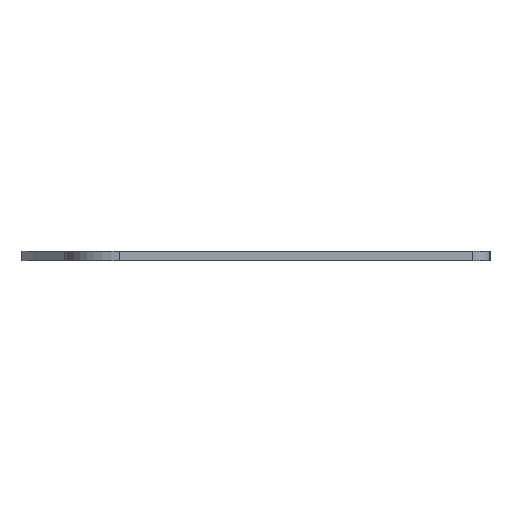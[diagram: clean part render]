
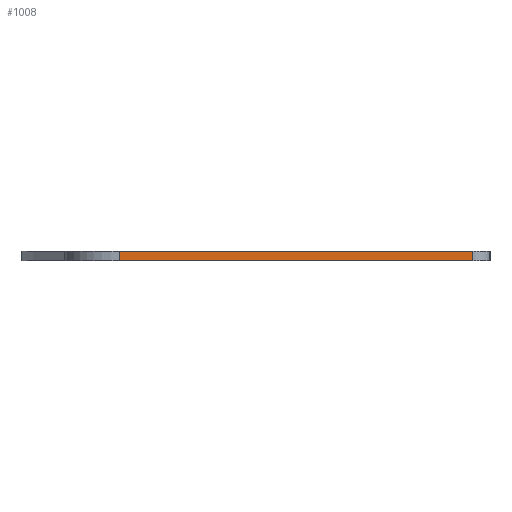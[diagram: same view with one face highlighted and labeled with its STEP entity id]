
A CAD part, left-side view. The second image highlights one B-rep face of the part: STEP entity #1008.
In plain terms, the highlighted planar face has unit normal (-1, 0, 0).
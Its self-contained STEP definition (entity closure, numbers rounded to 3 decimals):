
#44 = CYLINDRICAL_SURFACE('',#45,8.2);
#45 = AXIS2_PLACEMENT_3D('',#46,#47,#48);
#46 = CARTESIAN_POINT('',(-357.,12.,0.));
#47 = DIRECTION('',(-0.,-0.,-1.));
#48 = DIRECTION('',(-1.,0.,0.));
#72 = PLANE('',#73);
#73 = AXIS2_PLACEMENT_3D('',#74,#75,#76);
#74 = CARTESIAN_POINT('',(0.,108.486,4.5));
#75 = DIRECTION('',(0.,0.,1.));
#76 = DIRECTION('',(1.,0.,-0.));
#126 = PLANE('',#127);
#127 = AXIS2_PLACEMENT_3D('',#128,#129,#130);
#128 = CARTESIAN_POINT('',(0.,108.486,0.));
#129 = DIRECTION('',(0.,0.,1.));
#130 = DIRECTION('',(1.,0.,-0.));
#141 = EDGE_CURVE('',#142,#144,#146,.T.);
#142 = VERTEX_POINT('',#143);
#143 = CARTESIAN_POINT('',(-365.2,12.,0.));
#144 = VERTEX_POINT('',#145);
#145 = CARTESIAN_POINT('',(-365.2,12.,4.5));
#146 = SURFACE_CURVE('',#147,(#151,#158),.PCURVE_S1.);
#147 = LINE('',#148,#149);
#148 = CARTESIAN_POINT('',(-365.2,12.,0.));
#149 = VECTOR('',#150,1.);
#150 = DIRECTION('',(0.,0.,1.));
#151 = PCURVE('',#44,#152);
#152 = DEFINITIONAL_REPRESENTATION('',(#153),#157);
#153 = LINE('',#154,#155);
#154 = CARTESIAN_POINT('',(-6.283,0.));
#155 = VECTOR('',#156,1.);
#156 = DIRECTION('',(-0.,-1.));
#157 = ( GEOMETRIC_REPRESENTATION_CONTEXT(2) 
PARAMETRIC_REPRESENTATION_CONTEXT() REPRESENTATION_CONTEXT('2D SPACE',''
  ) );
#158 = PCURVE('',#159,#164);
#159 = PLANE('',#160);
#160 = AXIS2_PLACEMENT_3D('',#161,#162,#163);
#161 = CARTESIAN_POINT('',(-365.2,179.788,0.));
#162 = DIRECTION('',(1.,0.,-0.));
#163 = DIRECTION('',(0.,-1.,0.));
#164 = DEFINITIONAL_REPRESENTATION('',(#165),#169);
#165 = LINE('',#166,#167);
#166 = CARTESIAN_POINT('',(167.788,0.));
#167 = VECTOR('',#168,1.);
#168 = DIRECTION('',(0.,-1.));
#169 = ( GEOMETRIC_REPRESENTATION_CONTEXT(2) 
PARAMETRIC_REPRESENTATION_CONTEXT() REPRESENTATION_CONTEXT('2D SPACE',''
  ) );
#381 = VERTEX_POINT('',#382);
#382 = CARTESIAN_POINT('',(-365.2,179.788,0.));
#397 = CYLINDRICAL_SURFACE('',#398,26.2);
#398 = AXIS2_PLACEMENT_3D('',#399,#400,#401);
#399 = CARTESIAN_POINT('',(-339.,179.788,0.));
#400 = DIRECTION('',(-0.,-0.,-1.));
#401 = DIRECTION('',(-0.119,0.993,0.));
#409 = EDGE_CURVE('',#381,#142,#410,.T.);
#410 = SURFACE_CURVE('',#411,(#415,#422),.PCURVE_S1.);
#411 = LINE('',#412,#413);
#412 = CARTESIAN_POINT('',(-365.2,179.788,0.));
#413 = VECTOR('',#414,1.);
#414 = DIRECTION('',(0.,-1.,-0.));
#415 = PCURVE('',#126,#416);
#416 = DEFINITIONAL_REPRESENTATION('',(#417),#421);
#417 = LINE('',#418,#419);
#418 = CARTESIAN_POINT('',(-365.2,71.302));
#419 = VECTOR('',#420,1.);
#420 = DIRECTION('',(0.,-1.));
#421 = ( GEOMETRIC_REPRESENTATION_CONTEXT(2) 
PARAMETRIC_REPRESENTATION_CONTEXT() REPRESENTATION_CONTEXT('2D SPACE',''
  ) );
#422 = PCURVE('',#159,#423);
#423 = DEFINITIONAL_REPRESENTATION('',(#424),#428);
#424 = LINE('',#425,#426);
#425 = CARTESIAN_POINT('',(0.,0.));
#426 = VECTOR('',#427,1.);
#427 = DIRECTION('',(1.,0.));
#428 = ( GEOMETRIC_REPRESENTATION_CONTEXT(2) 
PARAMETRIC_REPRESENTATION_CONTEXT() REPRESENTATION_CONTEXT('2D SPACE',''
  ) );
#756 = VERTEX_POINT('',#757);
#757 = CARTESIAN_POINT('',(-365.2,179.788,4.5));
#779 = EDGE_CURVE('',#756,#144,#780,.T.);
#780 = SURFACE_CURVE('',#781,(#785,#792),.PCURVE_S1.);
#781 = LINE('',#782,#783);
#782 = CARTESIAN_POINT('',(-365.2,179.788,4.5));
#783 = VECTOR('',#784,1.);
#784 = DIRECTION('',(0.,-1.,-0.));
#785 = PCURVE('',#72,#786);
#786 = DEFINITIONAL_REPRESENTATION('',(#787),#791);
#787 = LINE('',#788,#789);
#788 = CARTESIAN_POINT('',(-365.2,71.302));
#789 = VECTOR('',#790,1.);
#790 = DIRECTION('',(0.,-1.));
#791 = ( GEOMETRIC_REPRESENTATION_CONTEXT(2) 
PARAMETRIC_REPRESENTATION_CONTEXT() REPRESENTATION_CONTEXT('2D SPACE',''
  ) );
#792 = PCURVE('',#159,#793);
#793 = DEFINITIONAL_REPRESENTATION('',(#794),#798);
#794 = LINE('',#795,#796);
#795 = CARTESIAN_POINT('',(0.,-4.5));
#796 = VECTOR('',#797,1.);
#797 = DIRECTION('',(1.,0.));
#798 = ( GEOMETRIC_REPRESENTATION_CONTEXT(2) 
PARAMETRIC_REPRESENTATION_CONTEXT() REPRESENTATION_CONTEXT('2D SPACE',''
  ) );
#1008 = ADVANCED_FACE('',(#1009),#159,.F.);
#1009 = FACE_BOUND('',#1010,.F.);
#1010 = EDGE_LOOP('',(#1011,#1032,#1033,#1034));
#1011 = ORIENTED_EDGE('',*,*,#1012,.T.);
#1012 = EDGE_CURVE('',#381,#756,#1013,.T.);
#1013 = SURFACE_CURVE('',#1014,(#1018,#1025),.PCURVE_S1.);
#1014 = LINE('',#1015,#1016);
#1015 = CARTESIAN_POINT('',(-365.2,179.788,0.));
#1016 = VECTOR('',#1017,1.);
#1017 = DIRECTION('',(0.,0.,1.));
#1018 = PCURVE('',#159,#1019);
#1019 = DEFINITIONAL_REPRESENTATION('',(#1020),#1024);
#1020 = LINE('',#1021,#1022);
#1021 = CARTESIAN_POINT('',(0.,0.));
#1022 = VECTOR('',#1023,1.);
#1023 = DIRECTION('',(0.,-1.));
#1024 = ( GEOMETRIC_REPRESENTATION_CONTEXT(2) 
PARAMETRIC_REPRESENTATION_CONTEXT() REPRESENTATION_CONTEXT('2D SPACE',''
  ) );
#1025 = PCURVE('',#397,#1026);
#1026 = DEFINITIONAL_REPRESENTATION('',(#1027),#1031);
#1027 = LINE('',#1028,#1029);
#1028 = CARTESIAN_POINT('',(-7.735,0.));
#1029 = VECTOR('',#1030,1.);
#1030 = DIRECTION('',(-0.,-1.));
#1031 = ( GEOMETRIC_REPRESENTATION_CONTEXT(2) 
PARAMETRIC_REPRESENTATION_CONTEXT() REPRESENTATION_CONTEXT('2D SPACE',''
  ) );
#1032 = ORIENTED_EDGE('',*,*,#779,.T.);
#1033 = ORIENTED_EDGE('',*,*,#141,.F.);
#1034 = ORIENTED_EDGE('',*,*,#409,.F.);
